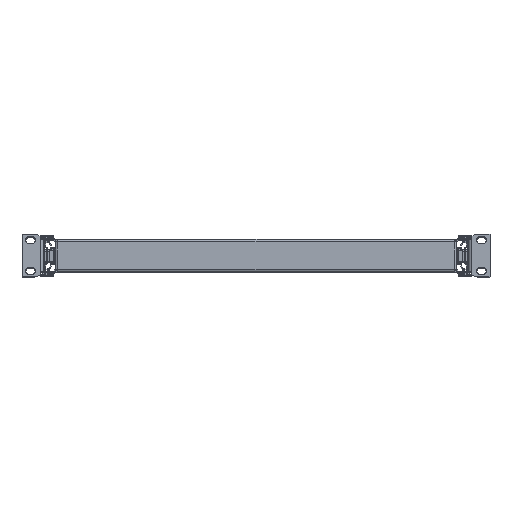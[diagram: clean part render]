
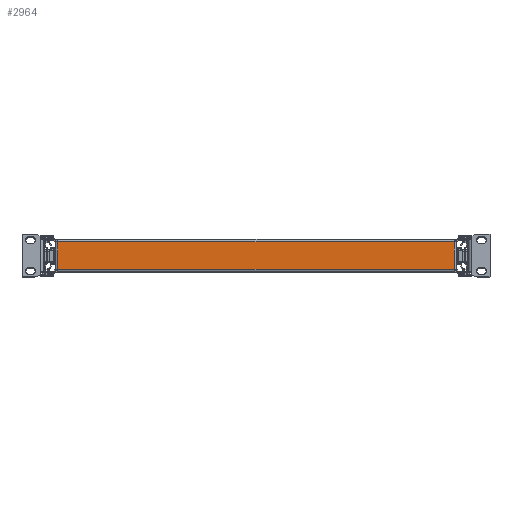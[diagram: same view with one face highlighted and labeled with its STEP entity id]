
A CAD part, top view. The second image highlights one B-rep face of the part: STEP entity #2964.
In plain terms, the highlighted planar face has unit normal (0, 0, 1).
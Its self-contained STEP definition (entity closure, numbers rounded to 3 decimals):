
#1542 = CARTESIAN_POINT ( 'NONE',  ( -204.3, -1.5, 225. ) ) ;
#2964 = ADVANCED_FACE ( 'NONE', ( #17048 ), #39363, .T. ) ;
#9992 = DIRECTION ( 'NONE',  ( -1., 0., 0. ) ) ;
#12210 = LINE ( 'NONE', #36042, #53318 ) ;
#12312 = VERTEX_POINT ( 'NONE', #1542 ) ;
#14019 = CARTESIAN_POINT ( 'NONE',  ( 204.3, -32.6, 225. ) ) ;
#17048 = FACE_OUTER_BOUND ( 'NONE', #20127, .T. ) ;
#20127 = EDGE_LOOP ( 'NONE', ( #35849, #24277, #47312, #41117 ) ) ;
#22717 = VERTEX_POINT ( 'NONE', #22732 ) ;
#22732 = CARTESIAN_POINT ( 'NONE',  ( 204.3, -29.7, 225. ) ) ;
#23279 = VECTOR ( 'NONE', #36560, 1000. ) ;
#24277 = ORIENTED_EDGE ( 'NONE', *, *, #27178, .T. ) ;
#27178 = EDGE_CURVE ( 'NONE', #53777, #22717, #48277, .T. ) ;
#27685 = VECTOR ( 'NONE', #9992, 1000. ) ;
#28597 = VERTEX_POINT ( 'NONE', #32800 ) ;
#30656 = DIRECTION ( 'NONE',  ( 0., -1., 0. ) ) ;
#31280 = AXIS2_PLACEMENT_3D ( 'NONE', #43895, #39175, #30656 ) ;
#32800 = CARTESIAN_POINT ( 'NONE',  ( 204.3, -1.5, 225. ) ) ;
#35163 = LINE ( 'NONE', #48453, #27685 ) ;
#35849 = ORIENTED_EDGE ( 'NONE', *, *, #51152, .T. ) ;
#36042 = CARTESIAN_POINT ( 'NONE',  ( -204.3, -1.5, 225. ) ) ;
#36560 = DIRECTION ( 'NONE',  ( 1., 0., 0. ) ) ;
#37582 = EDGE_CURVE ( 'NONE', #22717, #28597, #51488, .T. ) ;
#39175 = DIRECTION ( 'NONE',  ( 0., 0., 1. ) ) ;
#39363 = PLANE ( 'NONE',  #31280 ) ;
#41117 = ORIENTED_EDGE ( 'NONE', *, *, #49099, .T. ) ;
#43447 = VECTOR ( 'NONE', #44410, 1000. ) ;
#43895 = CARTESIAN_POINT ( 'NONE',  ( -207.2, 0., 225. ) ) ;
#44410 = DIRECTION ( 'NONE',  ( 0., 1., 0. ) ) ;
#44990 = CARTESIAN_POINT ( 'NONE',  ( -204.3, -29.7, 225. ) ) ;
#47312 = ORIENTED_EDGE ( 'NONE', *, *, #37582, .T. ) ;
#48277 = LINE ( 'NONE', #53965, #23279 ) ;
#48453 = CARTESIAN_POINT ( 'NONE',  ( -207.2, -1.5, 225. ) ) ;
#48993 = DIRECTION ( 'NONE',  ( 0., -1., 0. ) ) ;
#49099 = EDGE_CURVE ( 'NONE', #28597, #12312, #35163, .T. ) ;
#51152 = EDGE_CURVE ( 'NONE', #12312, #53777, #12210, .T. ) ;
#51488 = LINE ( 'NONE', #14019, #43447 ) ;
#53318 = VECTOR ( 'NONE', #48993, 1000. ) ;
#53777 = VERTEX_POINT ( 'NONE', #44990 ) ;
#53965 = CARTESIAN_POINT ( 'NONE',  ( -204.3, -29.7, 225. ) ) ;
